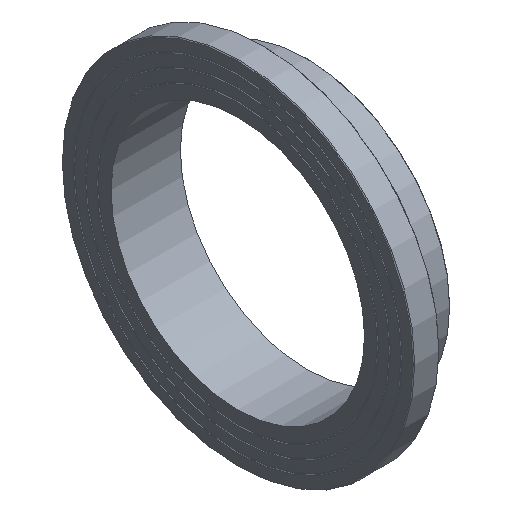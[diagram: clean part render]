
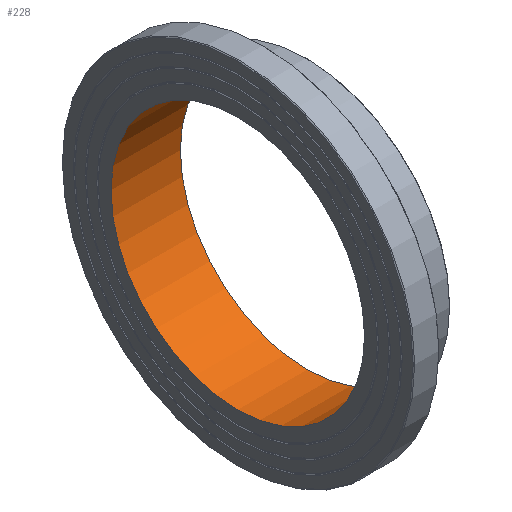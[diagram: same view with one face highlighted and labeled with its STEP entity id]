
A CAD part, isometric view. The second image highlights one B-rep face of the part: STEP entity #228.
In plain terms, the highlighted cylindrical face has radius 246.8 mm (diameter 493.6 mm), a full revolution.
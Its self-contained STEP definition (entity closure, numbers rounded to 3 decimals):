
#33=CYLINDRICAL_SURFACE('',#274,246.8);
#50=ORIENTED_EDGE('',*,*,#79,.F.);
#51=ORIENTED_EDGE('',*,*,#76,.T.);
#76=EDGE_CURVE('',#96,#96,#116,.T.);
#79=EDGE_CURVE('',#99,#99,#119,.T.);
#96=VERTEX_POINT('',#383);
#99=VERTEX_POINT('',#390);
#116=CIRCLE('',#257,246.8);
#119=CIRCLE('',#261,246.8);
#150=EDGE_LOOP('',(#50));
#151=EDGE_LOOP('',(#51));
#190=FACE_BOUND('',#150,.T.);
#191=FACE_BOUND('',#151,.T.);
#228=ADVANCED_FACE('',(#190,#191),#33,.F.);
#257=AXIS2_PLACEMENT_3D('',#382,#303,#304);
#261=AXIS2_PLACEMENT_3D('',#389,#311,#312);
#274=AXIS2_PLACEMENT_3D('',#410,#337,#338);
#303=DIRECTION('',(-1.,0.,0.));
#304=DIRECTION('',(0.,0.,1.));
#311=DIRECTION('',(-1.,0.,0.));
#312=DIRECTION('',(0.,0.,1.));
#337=DIRECTION('',(-1.,0.,0.));
#338=DIRECTION('',(0.,0.,1.));
#382=CARTESIAN_POINT('',(0.,0.,0.));
#383=CARTESIAN_POINT('',(0.,0.,246.8));
#389=CARTESIAN_POINT('',(135.,0.,0.));
#390=CARTESIAN_POINT('',(135.,0.,246.8));
#410=CARTESIAN_POINT('',(60.,0.,0.));
